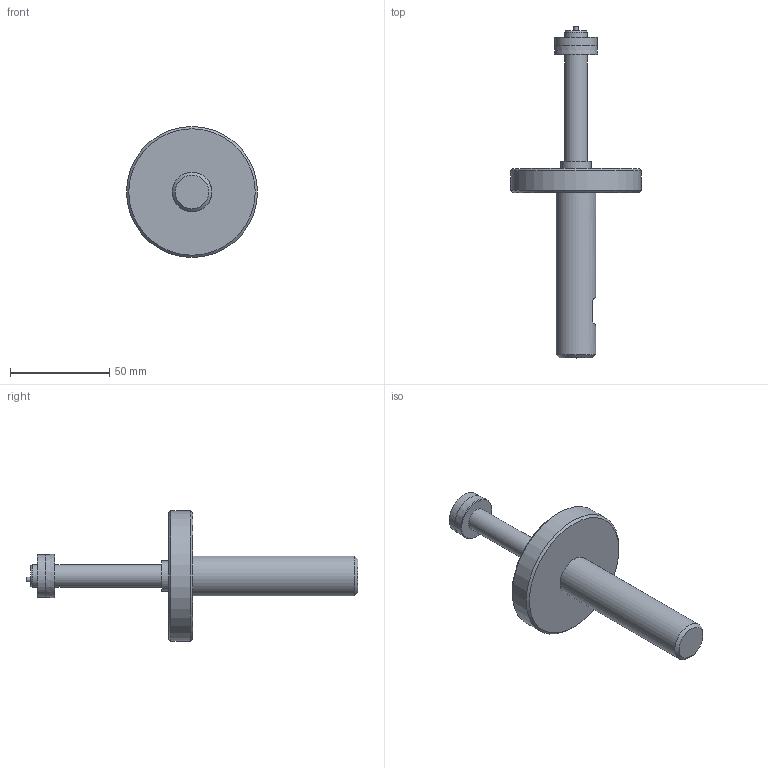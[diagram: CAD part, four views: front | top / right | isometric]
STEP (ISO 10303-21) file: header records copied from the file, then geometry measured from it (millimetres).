
FILE_DESCRIPTION (( 'STEP AP203' ), '1' );
FILE_NAME ('AF44-SIMPLE - AF44-11.50M-22.00M.step', '2025-01-21T15:05:07', ( '' ), ( '' ), 'SwSTEP 2.0', 'SolidWorks 2024', '' );
FILE_SCHEMA (( 'CONFIG_CONTROL_DESIGN' ));
Length unit declared in the file: inch
Products named in the file (1): AF44-SIMPLE - AF44-11.50M-22.00M
Bounding box: 66.04 x 167.39 x 66.04 mm (x, y, z)
Volume: 77156.3 mm3; surface area: 17628 mm2
Topology: 1 solids, 1 shells, 24 faces, 40 edges, 25 vertices
Faces by surface type: plane 11, cylinder 7, cone 5, torus 1
Full cylindrical faces by diameter (mm): 2.286 x1, 11.379 x2, 15.24 x1, 20 x1, 21.494 x1, 66.04 x1
Entity records: 569 total; most frequent: DIRECTION 94, CARTESIAN_POINT 81, ORIENTED_EDGE 52, AXIS2_PLACEMENT_3D 45, EDGE_LOOP 44, FACE_OUTER_BOUND 32, EDGE_CURVE 26, ADVANCED_FACE 24
